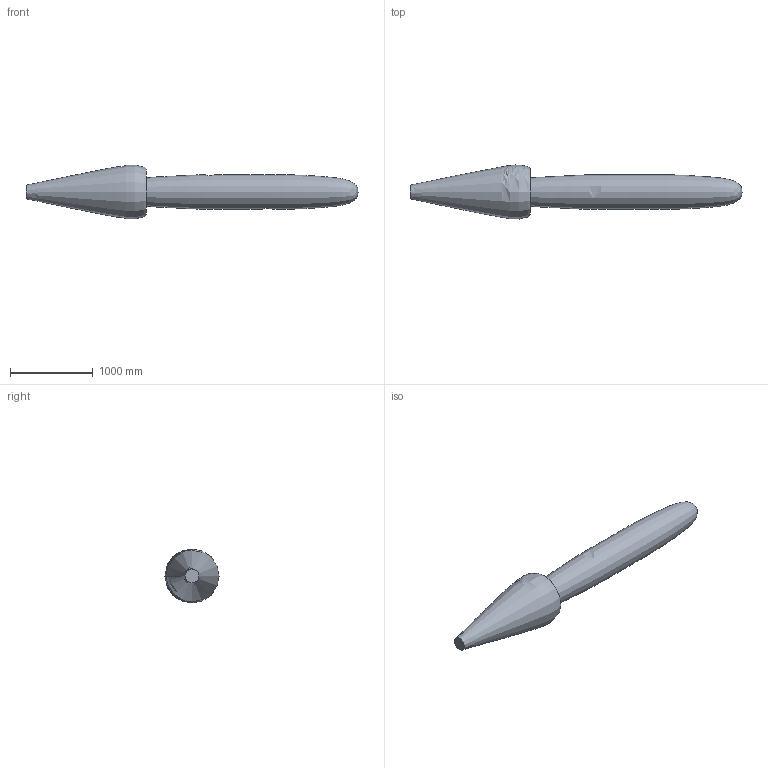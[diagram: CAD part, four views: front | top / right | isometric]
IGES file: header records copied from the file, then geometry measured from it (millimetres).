
Global section: file name: No Iges File Name specified; native system: AutoDesk Inventor R6.1; preprocessor: AutoDesk Inventor Iges Exporter R6.1; author: No Author specified; organization: No Organization specified; date: 20050811.082246; units: millimetre
Bounding box: 4002 x 651.14 x 650.17 mm (x, y, z)
Surface area: 5759673.1 mm2 (no closed solid volume)
Topology: 0 solids, 0 shells, 2 faces, 5 edges, 3 vertices
Faces by surface type: bspline 1, plane 1
